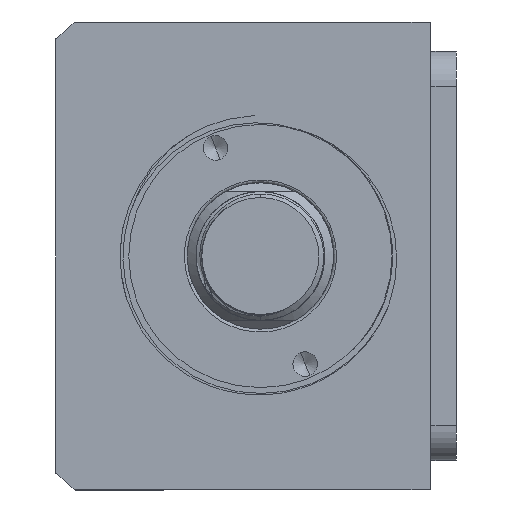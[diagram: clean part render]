
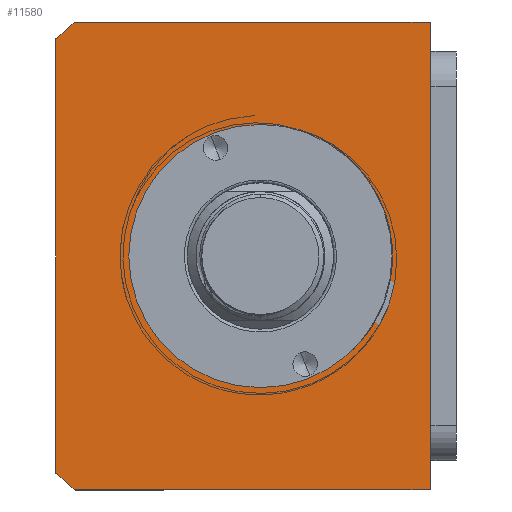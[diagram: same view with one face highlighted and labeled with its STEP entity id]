
A CAD part, front view. The second image highlights one B-rep face of the part: STEP entity #11580.
In plain terms, the highlighted planar face has unit normal (0, -1, 0) as drawn and (0, 0, 1) by its records, which use the part's own axes.
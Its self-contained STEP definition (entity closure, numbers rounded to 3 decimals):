
#183 = DIRECTION ( 'NONE',  ( 0., 0., 1. ) ) ;
#186 = LINE ( 'NONE', #3998, #10798 ) ;
#257 = CARTESIAN_POINT ( 'NONE',  ( -22.5, -40.507, 125. ) ) ;
#292 = AXIS2_PLACEMENT_3D ( 'NONE', #1920, #9330, #2971 ) ;
#892 = VERTEX_POINT ( 'NONE', #3980 ) ;
#917 = FACE_BOUND ( 'NONE', #4798, .T. ) ;
#1318 = CARTESIAN_POINT ( 'NONE',  ( 0., -40.507, 125. ) ) ;
#1418 = CIRCLE ( 'NONE', #10161, 51. ) ;
#1602 = FACE_OUTER_BOUND ( 'NONE', #10808, .T. ) ;
#1767 = DIRECTION ( 'NONE',  ( 0., 0., 1. ) ) ;
#1920 = CARTESIAN_POINT ( 'NONE',  ( 0., 0., 125. ) ) ;
#1977 = CARTESIAN_POINT ( 'NONE',  ( 40., -11.507, 125. ) ) ;
#2129 = EDGE_CURVE ( 'NONE', #5759, #6096, #9856, .T. ) ;
#2211 = EDGE_CURVE ( 'NONE', #2432, #2245, #1418, .T. ) ;
#2245 = VERTEX_POINT ( 'NONE', #3429 ) ;
#2366 = DIRECTION ( 'NONE',  ( 1., 0., 0. ) ) ;
#2432 = VERTEX_POINT ( 'NONE', #13092 ) ;
#2613 = CARTESIAN_POINT ( 'NONE',  ( 40., -11.507, 125. ) ) ;
#2789 = CARTESIAN_POINT ( 'NONE',  ( -40., -72.145, 125. ) ) ;
#2971 = DIRECTION ( 'NONE',  ( 1., 0., 0. ) ) ;
#3429 = CARTESIAN_POINT ( 'NONE',  ( 40., -72.145, 125. ) ) ;
#3451 = AXIS2_PLACEMENT_3D ( 'NONE', #3501, #10918, #4579 ) ;
#3501 = CARTESIAN_POINT ( 'NONE',  ( 0., -40.507, 125. ) ) ;
#3824 = EDGE_CURVE ( 'NONE', #6692, #6821, #8696, .T. ) ;
#3980 = CARTESIAN_POINT ( 'NONE',  ( -40., -11.507, 125. ) ) ;
#3998 = CARTESIAN_POINT ( 'NONE',  ( -40., -11.507, 125. ) ) ;
#4015 = ORIENTED_EDGE ( 'NONE', *, *, #12603, .T. ) ;
#4205 = CARTESIAN_POINT ( 'NONE',  ( -40., -75.507, 125. ) ) ;
#4238 = CIRCLE ( 'NONE', #11634, 22.5 ) ;
#4446 = DIRECTION ( 'NONE',  ( 0., -1., 0. ) ) ;
#4579 = DIRECTION ( 'NONE',  ( 1., 0., 0. ) ) ;
#4662 = ORIENTED_EDGE ( 'NONE', *, *, #10898, .T. ) ;
#4798 = EDGE_LOOP ( 'NONE', ( #8076, #7929 ) ) ;
#5011 = CARTESIAN_POINT ( 'NONE',  ( -37.094, -75.507, 125. ) ) ;
#5759 = VERTEX_POINT ( 'NONE', #257 ) ;
#5830 = ORIENTED_EDGE ( 'NONE', *, *, #8331, .T. ) ;
#6096 = VERTEX_POINT ( 'NONE', #6932 ) ;
#6535 = CARTESIAN_POINT ( 'NONE',  ( 0., -40.507, 125. ) ) ;
#6668 = VERTEX_POINT ( 'NONE', #2613 ) ;
#6692 = VERTEX_POINT ( 'NONE', #2789 ) ;
#6821 = VERTEX_POINT ( 'NONE', #5011 ) ;
#6932 = CARTESIAN_POINT ( 'NONE',  ( 22.5, -40.507, 125. ) ) ;
#7298 = ORIENTED_EDGE ( 'NONE', *, *, #3824, .T. ) ;
#7442 = ORIENTED_EDGE ( 'NONE', *, *, #8073, .T. ) ;
#7603 = DIRECTION ( 'NONE',  ( 1., 0., 0. ) ) ;
#7929 = ORIENTED_EDGE ( 'NONE', *, *, #2129, .F. ) ;
#8062 = AXIS2_PLACEMENT_3D ( 'NONE', #6535, #183, #7603 ) ;
#8073 = EDGE_CURVE ( 'NONE', #892, #6692, #9952, .T. ) ;
#8076 = ORIENTED_EDGE ( 'NONE', *, *, #12155, .F. ) ;
#8111 = CARTESIAN_POINT ( 'NONE',  ( 0., -40.507, 125. ) ) ;
#8167 = DIRECTION ( 'NONE',  ( -1., 0., 0. ) ) ;
#8331 = EDGE_CURVE ( 'NONE', #6668, #892, #186, .T. ) ;
#8661 = CARTESIAN_POINT ( 'NONE',  ( -40., -11.507, 125. ) ) ;
#8696 = CIRCLE ( 'NONE', #3451, 51. ) ;
#8724 = DIRECTION ( 'NONE',  ( 0., 0., 1. ) ) ;
#9176 = DIRECTION ( 'NONE',  ( 1., 0., 0. ) ) ;
#9330 = DIRECTION ( 'NONE',  ( 0., 0., 1. ) ) ;
#9386 = DIRECTION ( 'NONE',  ( 0., 1., 0. ) ) ;
#9638 = VECTOR ( 'NONE', #4446, 1000. ) ;
#9713 = VECTOR ( 'NONE', #10545, 1000. ) ;
#9781 = LINE ( 'NONE', #1977, #11933 ) ;
#9856 = CIRCLE ( 'NONE', #8062, 22.5 ) ;
#9952 = LINE ( 'NONE', #8661, #9638 ) ;
#10014 = LINE ( 'NONE', #4205, #9713 ) ;
#10161 = AXIS2_PLACEMENT_3D ( 'NONE', #1318, #8724, #2366 ) ;
#10545 = DIRECTION ( 'NONE',  ( 1., 0., 0. ) ) ;
#10798 = VECTOR ( 'NONE', #8167, 1000. ) ;
#10808 = EDGE_LOOP ( 'NONE', ( #7442, #7298, #4015, #12019, #4662, #5830 ) ) ;
#10898 = EDGE_CURVE ( 'NONE', #2245, #6668, #9781, .T. ) ;
#10918 = DIRECTION ( 'NONE',  ( 0., 0., 1. ) ) ;
#11580 = ADVANCED_FACE ( 'NONE', ( #917, #1602 ), #13548, .T. ) ;
#11634 = AXIS2_PLACEMENT_3D ( 'NONE', #8111, #1767, #9176 ) ;
#11933 = VECTOR ( 'NONE', #9386, 1000. ) ;
#12019 = ORIENTED_EDGE ( 'NONE', *, *, #2211, .T. ) ;
#12155 = EDGE_CURVE ( 'NONE', #6096, #5759, #4238, .T. ) ;
#12603 = EDGE_CURVE ( 'NONE', #6821, #2432, #10014, .T. ) ;
#13092 = CARTESIAN_POINT ( 'NONE',  ( 37.094, -75.507, 125. ) ) ;
#13548 = PLANE ( 'NONE',  #292 ) ;
